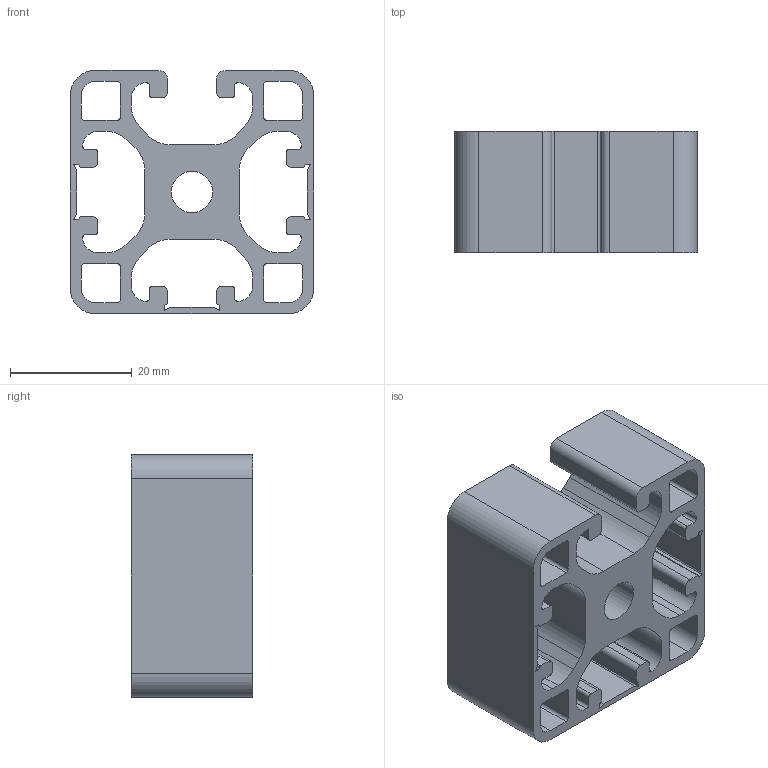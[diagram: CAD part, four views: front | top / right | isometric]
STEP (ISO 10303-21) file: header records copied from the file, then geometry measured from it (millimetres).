
FILE_DESCRIPTION(('STEP AP214'),'1');
FILE_NAME('cctmp_7B374C39-89C9-4B8D-A189-6A90C8AA2FAA_2023_04_28_11_35_23_0968_26440..stp','2023-04-28T09:35:24',('item Industrietechnik GmbH'),('CADClick - www.CADClick.com'),'Spatial InterOp 3D',' ','unknown authorization');
FILE_SCHEMA(('AUTOMOTIVE_DESIGN'));
Length unit declared in the file: millimetre
Products named in the file (2): item_0069323_Profile 8 40x40 3NO light_L=20; item_0069323_Profile 8 40x40 3NO light_L=20_1
Assembly tree (1 placements, depth 2):
  item_0069323_Profile 8 40x40 3NO light_L=20
    item_0069323_Profile 8 40x40 3NO light_L=20_1
Bounding box: 40 x 20 x 40 mm (x, y, z)
Volume: 13609.5 mm3; surface area: 11646.9 mm2
Topology: 1 solids, 1 shells, 166 faces, 492 edges, 328 vertices
Faces by surface type: cylinder 84, plane 82
Entity records: 7015 total; most frequent: DIRECTION 996, CARTESIAN_POINT 988, ORIENTED_EDGE 984, EDGE_CURVE 492, AXIS2_PLACEMENT_3D 336, VERTEX_POINT 328, LINE 324, VECTOR 324
